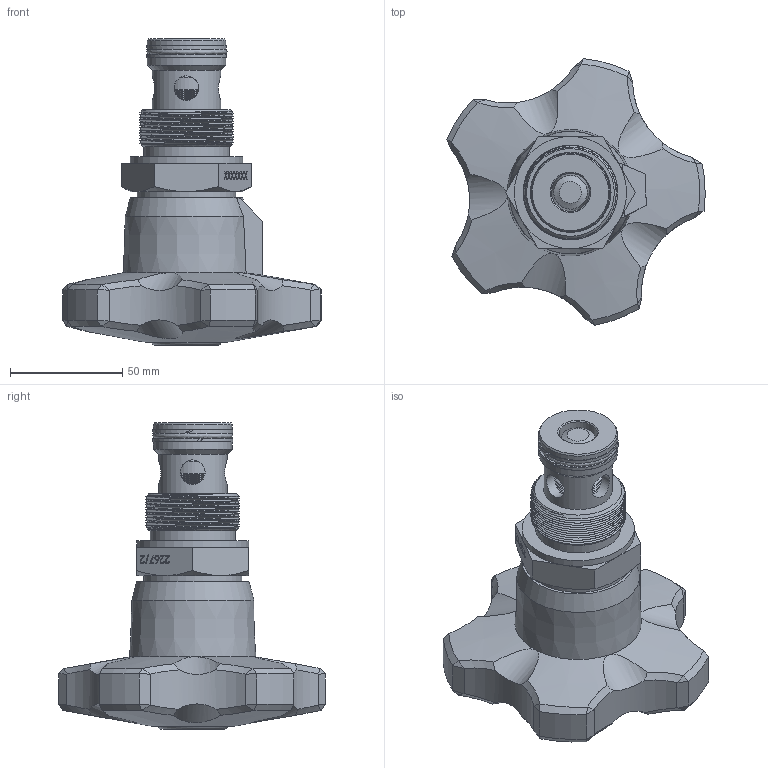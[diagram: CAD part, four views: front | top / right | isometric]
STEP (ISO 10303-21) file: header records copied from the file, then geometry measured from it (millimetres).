
FILE_DESCRIPTION (( 'STEP AP214' ), '1' );
FILE_NAME ('2267-2-100 VOLANTINO ABS.STEP', '2025-10-30T14:45:16', ( '' ), ( '' ), 'SwSTEP 2.0', 'SolidWorks 2025', '' );
FILE_SCHEMA (( 'AUTOMOTIVE_DESIGN' ));
Length unit declared in the file: millimetre
Products named in the file (16): VOLANTINO DI MANOVRA 257-1.005.00-100; CORPO CARTUCCIA FILETTATA 2267-2.101.00-100; BK 123; ANELLO ANTI ESTRUSIONE 267-5.022.00.0-34; GRANO DI BLOCCAGGIO M6x10_Tipo18; VITE TESTA BOMBATA 257-1.006.00-100; ASSIEME VOLANTINO 257-1.005.00-100; DISCO FASCETTA 257-1.004.00-100; INSERTO ESEGONALE 257-1.005.02-100; 2267-2-100 VOLANTINO ABS; SPILLO DI REGOLAZIONE 2267-2.002.00-100; OR 123; CAPPUCCIO VOLANTINO 257-2.007.00-38_Tipo38; OR 3118; ANELLO DI ARRESTO 257-1.003.00-100; INSERTO FILETTATO 257-1.005.03-100
Assembly tree (16 placements, depth 3):
  2267-2-100 VOLANTINO ABS
    CORPO CARTUCCIA FILETTATA 2267-2.101.00-100
    SPILLO DI REGOLAZIONE 2267-2.002.00-100
    OR 123
    BK 123
    GRANO DI BLOCCAGGIO M6x10_Tipo18
    OR 3118
    ANELLO ANTI ESTRUSIONE 267-5.022.00.0-34  x2
    VITE TESTA BOMBATA 257-1.006.00-100
    ANELLO DI ARRESTO 257-1.003.00-100
    DISCO FASCETTA 257-1.004.00-100
    CAPPUCCIO VOLANTINO 257-2.007.00-38_Tipo38
    ASSIEME VOLANTINO 257-1.005.00-100
      VOLANTINO DI MANOVRA 257-1.005.00-100
      INSERTO ESEGONALE 257-1.005.02-100
      INSERTO FILETTATO 257-1.005.03-100
Bounding box: 115.06 x 118.78 x 136.4 mm (x, y, z)
Volume: 363200.6 mm3; surface area: 93162 mm2
Topology: 15 solids, 15 shells, 1121 faces, 2776 edges, 1752 vertices
Faces by surface type: plane 633, cone 231, cylinder 172, bspline 78, torus 6, sphere 1
Full cylindrical faces by diameter (mm): 4 x1, 5 x2, 6 x1, 7.5 x1, 11 x4, 11.7 x1, 15 x1, 16 x1, 17 x2, 17.5 x1, 18.4 x1, 19.4 x1, 19.5 x1, 20 x1, 20.4 x1, 22 x1, 23 x2, 24 x2, 25.7 x1, 27.8 x1, 30.35 x1, 30.5 x1, 33 x1, 35 x2, 36 x1, 37.5 x1, 38 x1, 43 x1, 43.1 x1, 43.8 x1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
Entity records: 43026 total; most frequent: CARTESIAN_POINT 17705, ORIENTED_EDGE 5010, DIRECTION 4823, EDGE_CURVE 2505, VERTEX_POINT 1715, AXIS2_PLACEMENT_3D 1630, LINE 1563, VECTOR 1563
